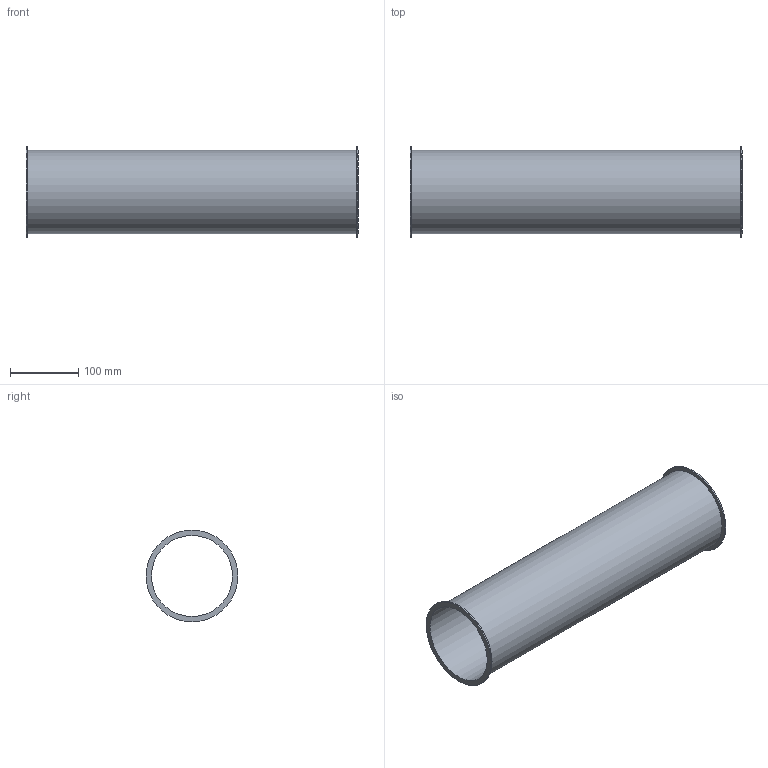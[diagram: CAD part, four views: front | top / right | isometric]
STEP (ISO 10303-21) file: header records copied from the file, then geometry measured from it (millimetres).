
FILE_DESCRIPTION((''),'2;1');
FILE_NAME('U:\Wolfgang\Marcel-3D\fertig\Kapitel 1\1221003.stp','2010-05-31T11:01:28',('TK2'),(''),'Autodesk Inventor 2010','Autodesk Inventor 2010','');
FILE_SCHEMA(('AUTOMOTIVE_DESIGN { 1 0 10303 214 1 1 1 1 }'));
Length unit declared in the file: millimetre
Products named in the file (1): 1221003
Bounding box: 488 x 135 x 135 mm (x, y, z)
Volume: 380735.9 mm3; surface area: 382407.2 mm2
Topology: 1 solids, 1 shells, 8 faces, 12 edges, 8 vertices
Faces by surface type: cylinder 4, plane 4
Full cylindrical faces by diameter (mm): 119 x1, 123 x1, 135 x2
Entity records: 194 total; most frequent: DIRECTION 34, CARTESIAN_POINT 25, AXIS2_PLACEMENT_3D 17, ORIENTED_EDGE 16, EDGE_LOOP 16, VERTEX_POINT 8, CIRCLE 8, EDGE_CURVE 8
